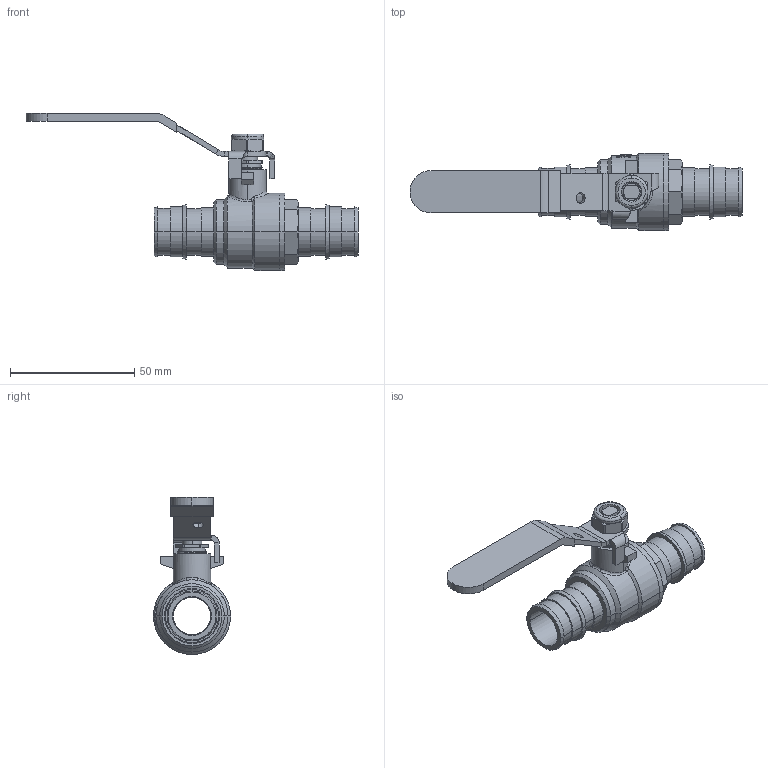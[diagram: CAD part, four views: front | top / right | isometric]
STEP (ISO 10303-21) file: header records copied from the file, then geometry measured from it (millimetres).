
FILE_DESCRIPTION(('Open CASCADE Model'),'2;1');
FILE_NAME('Open CASCADE Shape Model','2021-11-23T08:24:44',('Author'),( 'Open CASCADE'),'Open CASCADE STEP processor 7.3','Open CASCADE 7.3' ,'Unknown');
FILE_SCHEMA(('AUTOMOTIVE_DESIGN { 1 0 10303 214 1 1 1 1 }'));
Length unit declared in the file: millimetre
Products named in the file (12): Open CASCADE STEP translator 7.3 1; Open CASCADE STEP translator 7.3 1.1; Open CASCADE STEP translator 7.3 1.2; Open CASCADE STEP translator 7.3 1.3; Open CASCADE STEP translator 7.3 1.4; Open CASCADE STEP translator 7.3 1.5; Open CASCADE STEP translator 7.3 1.6; Open CASCADE STEP translator 7.3 1.7; Open CASCADE STEP translator 7.3 1.8; Open CASCADE STEP translator 7.3 1.9; Open CASCADE STEP translator 7.3 1.10; Open CASCADE STEP translator 7.3 1.11
Assembly tree (11 placements, depth 2):
  Open CASCADE STEP translator 7.3 1
    Open CASCADE STEP translator 7.3 1.1
    Open CASCADE STEP translator 7.3 1.2
    Open CASCADE STEP translator 7.3 1.3
    Open CASCADE STEP translator 7.3 1.4
    Open CASCADE STEP translator 7.3 1.5
    Open CASCADE STEP translator 7.3 1.6
    Open CASCADE STEP translator 7.3 1.7
    Open CASCADE STEP translator 7.3 1.8
    Open CASCADE STEP translator 7.3 1.9
    Open CASCADE STEP translator 7.3 1.10
    Open CASCADE STEP translator 7.3 1.11
Bounding box: 133.5 x 31 x 63.15 mm (x, y, z)
Volume: 27487.1 mm3; surface area: 26112.1 mm2
Topology: 11 solids, 11 shells, 591 faces, 1504 edges, 970 vertices
Faces by surface type: cylinder 182, plane 181, bspline 125, cone 75, torus 20, sphere 6, revolution 2
Entity records: 83658 total; most frequent: CARTESIAN_POINT 56930, DIRECTION 3933, ORIENTED_EDGE 3004, PCURVE 3004, DEFINITIONAL_REPRESENTATION 3004, LINE 2018, VECTOR 2018, B_SPLINE_CURVE_WITH_KNOTS 1615
